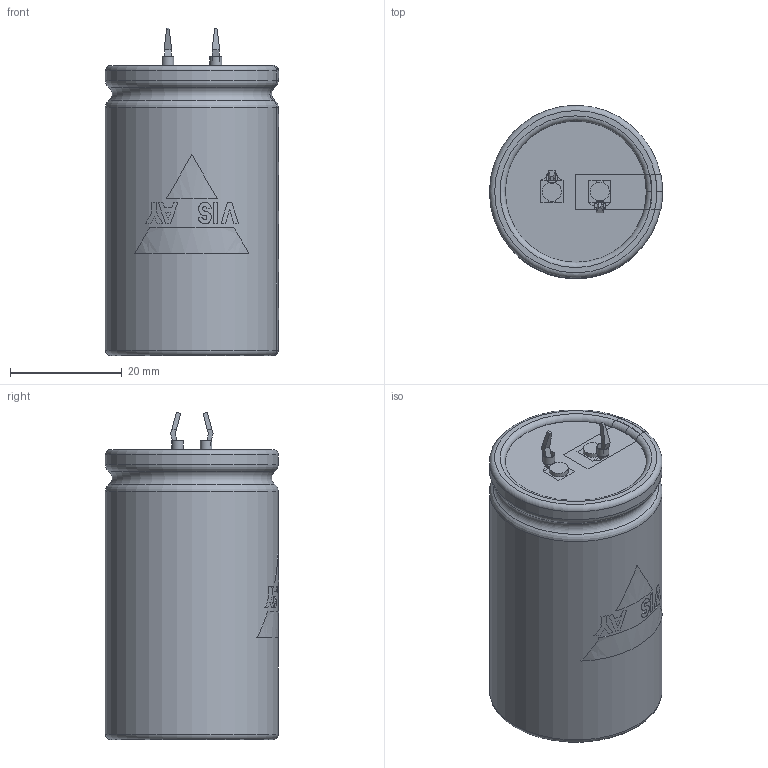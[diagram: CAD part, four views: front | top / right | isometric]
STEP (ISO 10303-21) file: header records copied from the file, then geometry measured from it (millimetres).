
FILE_DESCRIPTION(('FreeCAD Model'),'2;1');
FILE_NAME( 'C:/Users/Gebruiker/Documents/FreeCAD/SnapIn_30x50_2pin_5.8.step', '2020-11-12T20:27:54',('Author'),(''), 'Open CASCADE STEP processor 6.8','FreeCAD','Unknown');
FILE_SCHEMA(('AUTOMOTIVE_DESIGN_CC2 { 1 2 10303 214 -1 1 5 4 }'));
Length unit declared in the file: millimetre
Products named in the file (9): ASSEMBLY; TerminalMin; TerminalPlus; PCBHoles; Disc; BottomInsulation; Can3D; InkMinusBar; InkLogo
Assembly tree (8 placements, depth 2):
  ASSEMBLY
    TerminalMin
    TerminalPlus
    PCBHoles
    Disc
    BottomInsulation
    Can3D
    InkMinusBar
    InkLogo
Bounding box: 31.05 x 31.05 x 58.75 mm (x, y, z)
Volume: 44143.3 mm3; surface area: 15223.8 mm2
Topology: 16 solids, 16 shells, 197 faces, 495 edges, 325 vertices
Faces by surface type: plane 151, cylinder 28, torus 18
Full cylindrical faces by diameter (mm): 2 x2, 2.1 x2, 3.4 x2, 24.8 x2, 25.3 x1, 31 x2
Entity records: 20874 total; most frequent: CARTESIAN_POINT 9810, DIRECTION 1734, ORIENTED_EDGE 990, PCURVE 990, DEFINITIONAL_REPRESENTATION 990, LINE 986, VECTOR 986, EDGE_CURVE 495
